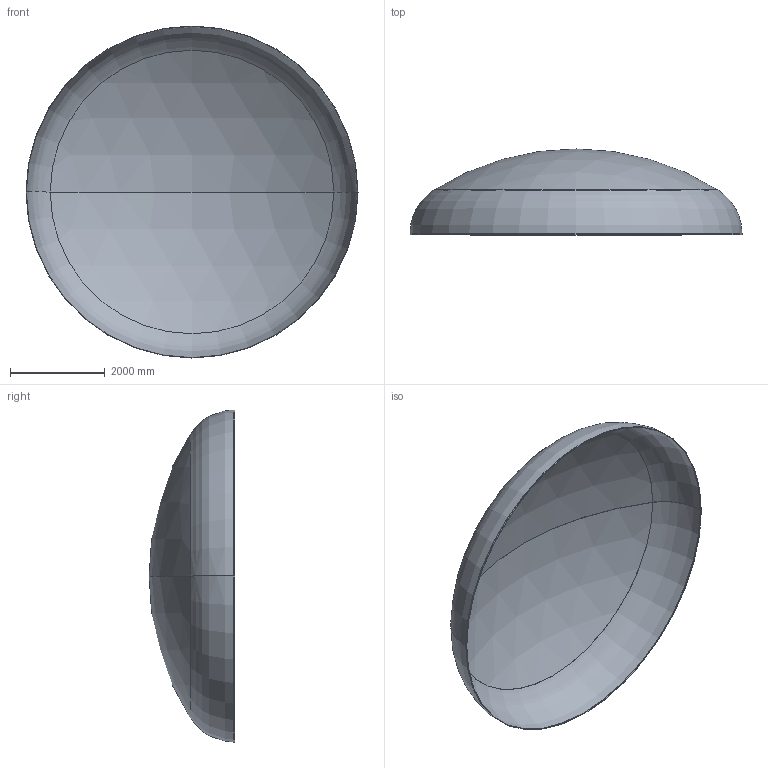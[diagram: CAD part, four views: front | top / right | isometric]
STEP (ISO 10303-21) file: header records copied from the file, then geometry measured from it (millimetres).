
FILE_DESCRIPTION (( 'STEP AP203' ), '1' );
FILE_NAME ('DIN 28013 Korbbogenform_-_Boden DIN 28013 - 7000 x 25 - I - s=7.step', '2016-07-04T10:44:44', ( '' ), ( '' ), 'SwSTEP 2.0', 'SolidWorks 2013', '' );
FILE_SCHEMA (( 'CONFIG_CONTROL_DESIGN' ));
Length unit declared in the file: millimetre
Products named in the file (1): DIN 28013 Korbbogenform_-_Boden DIN 28013 - 7000 x 25 - I - s=7
Bounding box: 7000 x 1809.98 x 7000 mm (x, y, z)
Volume: 376632155.3 mm3; surface area: 107763029 mm2
Topology: 1 solids, 1 shells, 13 faces, 24 edges, 14 vertices
Faces by surface type: torus 4, cylinder 4, sphere 4, plane 1
Entity records: 407 total; most frequent: DIRECTION 72, CARTESIAN_POINT 52, ORIENTED_EDGE 48, AXIS2_PLACEMENT_3D 34, EDGE_CURVE 24, CIRCLE 20, EDGE_LOOP 14, VERTEX_POINT 14
